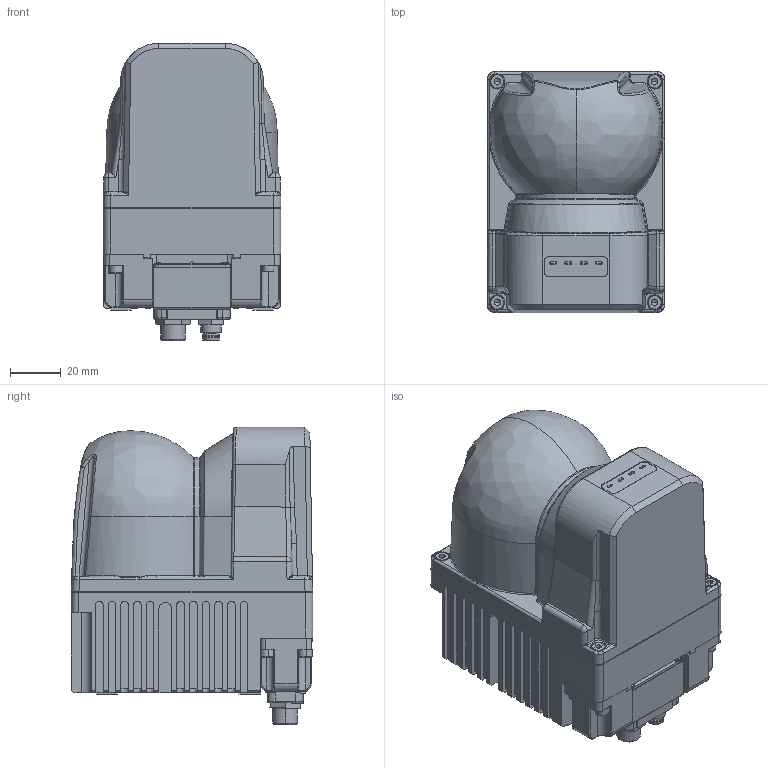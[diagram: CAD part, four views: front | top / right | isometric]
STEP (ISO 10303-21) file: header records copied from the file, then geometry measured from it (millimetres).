
FILE_DESCRIPTION (( 'STEP AP214' ), '1' );
FILE_NAME ('UYVT001.stp', '2017-10-13T07:46:18', ( 'hokuyo' ), ( '' ), 'SwSTEP 2.0', 'SolidWorks 2017', '' );
FILE_SCHEMA (( 'AUTOMOTIVE_DESIGN' ));
Length unit declared in the file: millimetre
Products named in the file (1): UYVT001
Bounding box: 70 x 95 x 117.08 mm (x, y, z)
Volume: 558044.1 mm3; surface area: 75960.2 mm2
Topology: 22 solids, 26 shells, 1367 faces, 3429 edges, 2169 vertices
Faces by surface type: plane 635, cylinder 411, bspline 132, cone 112, torus 59, sphere 18
Entity records: 60644 total; most frequent: CARTESIAN_POINT 13049, ORIENTED_EDGE 6794, DIRECTION 6747, EDGE_CURVE 3397, AXIS2_PLACEMENT_3D 2478, VERTEX_POINT 2169, VECTOR 1791, LINE 1791
